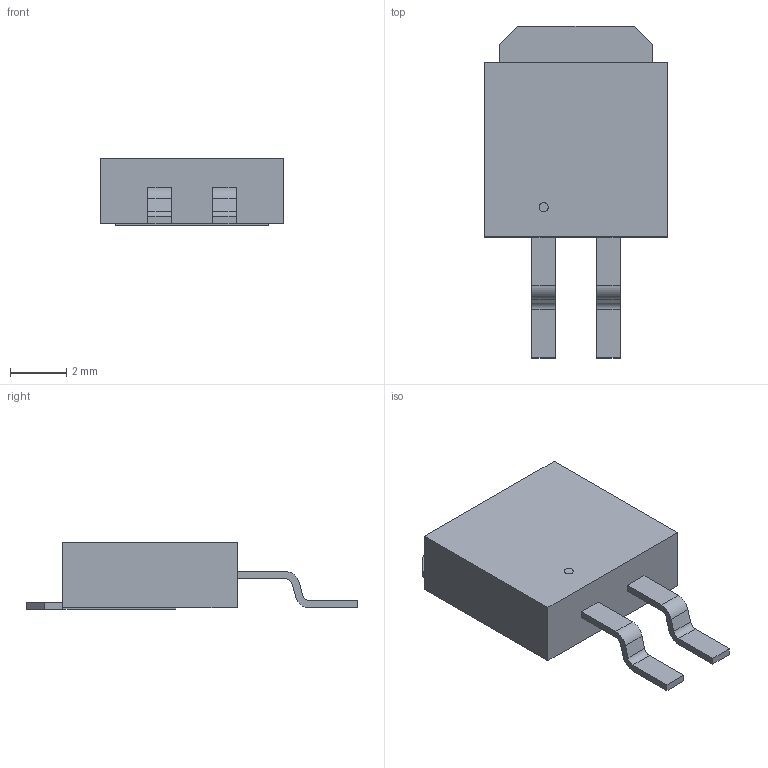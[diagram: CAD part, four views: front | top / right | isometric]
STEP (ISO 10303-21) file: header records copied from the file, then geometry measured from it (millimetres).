
FILE_DESCRIPTION(('STEP AP214'),'1');
FILE_NAME('TRANS_2SCR573D_ROM','2024-10-11T03:21:20',(''),(''),'','','');
FILE_SCHEMA(('AUTOMOTIVE_DESIGN'));
Length unit declared in the file: millimetre
Products named in the file (1): product
Bounding box: 6.5 x 11.79 x 2.37 mm (x, y, z)
Volume: 97.8 mm3; surface area: 215.3 mm2
Topology: 5 solids, 5 shells, 53 faces, 129 edges, 86 vertices
Faces by surface type: plane 44, cylinder 9
Full cylindrical faces by diameter (mm): 0.325 x1
Entity records: 1635 total; most frequent: DIRECTION 256, ORIENTED_EDGE 256, CARTESIAN_POINT 151, EDGE_CURVE 128, LINE 110, VECTOR 110, VERTEX_POINT 86, AXIS2_PLACEMENT_3D 73
